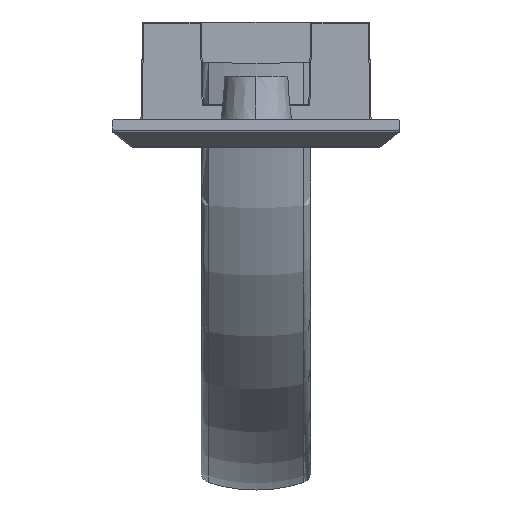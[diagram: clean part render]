
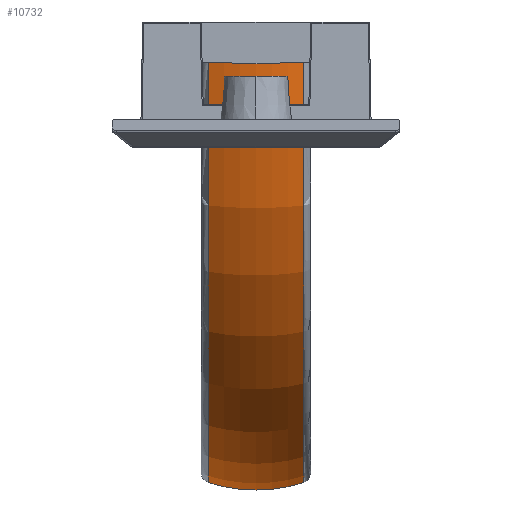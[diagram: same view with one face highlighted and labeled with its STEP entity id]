
A CAD part, front view. The second image highlights one B-rep face of the part: STEP entity #10732.
In plain terms, the highlighted toroidal (fillet/blend) face has major radius 25.752 mm and minor radius 14.998 mm.
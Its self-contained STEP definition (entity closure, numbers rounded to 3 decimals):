
#9583=CARTESIAN_POINT('',(4.603,41.142,-18.469));
#9811=CARTESIAN_POINT('',(-4.503,-38.942,
-18.469));
#9828=CARTESIAN_POINT('',(-4.503,1.1,
-18.31));
#9829=DIRECTION('',(-1.,0.,0.));
#9830=DIRECTION('',(0.,-1.,-0.004));
#9831=AXIS2_PLACEMENT_3D('',#9828,#9829,#9830);
#9833=CARTESIAN_POINT('',(-4.503,1.1,
-18.31));
#9834=DIRECTION('',(-1.,0.,0.));
#9835=DIRECTION('',(0.,-1.,0.004));
#9836=AXIS2_PLACEMENT_3D('',#9833,#9834,#9835);
#9838=CARTESIAN_POINT('',(-4.503,41.142,
-18.469));
#9839=CARTESIAN_POINT('',(-4.01,41.299,
-18.452));
#9840=CARTESIAN_POINT('',(-3.015,41.559,
-18.417));
#9841=CARTESIAN_POINT('',(-1.488,41.797,
-18.364));
#9842=CARTESIAN_POINT('',(-0.464,41.85,
-18.328));
#9843=CARTESIAN_POINT('',(0.05,41.85,
-18.31));
#9845=CARTESIAN_POINT('',(0.05,41.85,
-18.31));
#9846=CARTESIAN_POINT('',(0.564,41.85,
-18.328));
#9847=CARTESIAN_POINT('',(1.588,41.797,-18.364));
#9848=CARTESIAN_POINT('',(3.115,41.559,-18.417));
#9849=CARTESIAN_POINT('',(4.11,41.299,-18.452));
#9850=CARTESIAN_POINT('',(4.603,41.142,-18.469));
#9852=CARTESIAN_POINT('',(4.603,-38.942,
-18.469));
#9853=CARTESIAN_POINT('',(4.11,-39.099,
-18.452));
#9854=CARTESIAN_POINT('',(3.115,-39.359,
-18.417));
#9855=CARTESIAN_POINT('',(1.588,-39.597,
-18.364));
#9856=CARTESIAN_POINT('',(0.564,-39.65,
-18.328));
#9857=CARTESIAN_POINT('',(0.05,-39.65,
-18.31));
#9859=CARTESIAN_POINT('',(0.05,-39.65,
-18.31));
#9860=CARTESIAN_POINT('',(-0.464,-39.65,
-18.328));
#9861=CARTESIAN_POINT('',(-1.488,-39.597,
-18.364));
#9862=CARTESIAN_POINT('',(-3.015,-39.359,
-18.417));
#9863=CARTESIAN_POINT('',(-4.01,-39.099,
-18.452));
#9864=CARTESIAN_POINT('',(-4.503,-38.942,
-18.469));
#9866=CARTESIAN_POINT('',(4.603,1.1,-18.31));
#9867=DIRECTION('',(-1.,0.,0.));
#9868=DIRECTION('',(0.,-1.,-0.004));
#9869=AXIS2_PLACEMENT_3D('',#9866,#9867,#9868);
#9871=CARTESIAN_POINT('',(4.603,1.1,-18.31));
#9872=DIRECTION('',(-1.,0.,0.));
#9873=DIRECTION('',(0.,-1.,0.004));
#9874=AXIS2_PLACEMENT_3D('',#9871,#9872,#9873);
#10051=CARTESIAN_POINT('',(2.05,1.1,
-18.31));
#10052=DIRECTION('',(1.,0.,0.));
#10053=DIRECTION('',(0.,-0.995,0.096));
#10054=AXIS2_PLACEMENT_3D('',#10051,#10052,#10053);
#10060=CARTESIAN_POINT('',(2.05,-39.516,
-18.21));
#10061=CARTESIAN_POINT('',(1.607,-39.575,
-18.21));
#10062=CARTESIAN_POINT('',(0.72,-39.655,
-18.21));
#10063=CARTESIAN_POINT('',(-0.62,-39.655,
-18.21));
#10064=CARTESIAN_POINT('',(-1.507,-39.575,
-18.21));
#10065=CARTESIAN_POINT('',(-1.95,-39.516,
-18.21));
#10075=CARTESIAN_POINT('',(-1.95,1.1,
-18.31));
#10076=DIRECTION('',(-1.,0.,0.));
#10077=DIRECTION('',(0.,-1.,0.002));
#10078=AXIS2_PLACEMENT_3D('',#10075,#10076,#10077);
#10096=CARTESIAN_POINT('',(-1.95,-39.328,
-14.41));
#10097=CARTESIAN_POINT('',(-1.507,-39.388,
-14.41));
#10098=CARTESIAN_POINT('',(-0.62,-39.468,
-14.41));
#10099=CARTESIAN_POINT('',(0.72,-39.468,
-14.41));
#10100=CARTESIAN_POINT('',(1.607,-39.388,
-14.41));
#10101=CARTESIAN_POINT('',(2.05,-39.328,
-14.41));
#10128=CARTESIAN_POINT('',(0.05,41.85,
-18.31));
#10130=VERTEX_POINT('',#10128);
#10138=VERTEX_POINT('',#9583);
#10143=VERTEX_POINT('',#9852);
#10144=VERTEX_POINT('',#9857);
#10181=VERTEX_POINT('',#9811);
#10189=VERTEX_POINT('',#9838);
#10190=CARTESIAN_POINT('',(-4.503,-38.942,
-18.151));
#10191=VERTEX_POINT('',#10190);
#10192=CARTESIAN_POINT('',(4.603,-38.942,
-18.151));
#10193=VERTEX_POINT('',#10192);
#10194=CARTESIAN_POINT('',(2.05,-39.328,
-14.41));
#10195=CARTESIAN_POINT('',(2.05,-39.516,
-18.21));
#10196=VERTEX_POINT('',#10194);
#10197=VERTEX_POINT('',#10195);
#10198=VERTEX_POINT('',#10096);
#10199=CARTESIAN_POINT('',(-1.95,-39.516,
-18.21));
#10200=VERTEX_POINT('',#10199);
#10704=CARTESIAN_POINT('',(0.05,1.1,
-18.31));
#10705=DIRECTION('',(1.,0.,0.));
#10706=DIRECTION('',(0.,-1.,-0.004));
#10707=AXIS2_PLACEMENT_3D('',#10704,#10705,#10706);
#10708=TOROIDAL_SURFACE('',#10707,25.752,14.998);
#10709=ORIENTED_EDGE('',*,*,#10698,.T.);
#10710=ORIENTED_EDGE('',*,*,#10696,.T.);
#10711=ORIENTED_EDGE('',*,*,#10524,.T.);
#10712=ORIENTED_EDGE('',*,*,#10287,.T.);
#10714=ORIENTED_EDGE('',*,*,#10713,.F.);
#10716=ORIENTED_EDGE('',*,*,#10715,.F.);
#10718=ORIENTED_EDGE('',*,*,#10717,.T.);
#10719=ORIENTED_EDGE('',*,*,#10673,.T.);
#10720=EDGE_LOOP('',(#10709,#10710,#10711,#10712,#10714,#10716,#10718,#10719));
#10721=FACE_OUTER_BOUND('',#10720,.F.);
#10723=ORIENTED_EDGE('',*,*,#10722,.F.);
#10725=ORIENTED_EDGE('',*,*,#10724,.F.);
#10727=ORIENTED_EDGE('',*,*,#10726,.F.);
#10729=ORIENTED_EDGE('',*,*,#10728,.F.);
#10730=EDGE_LOOP('',(#10723,#10725,#10727,#10729));
#10731=FACE_BOUND('',#10730,.F.);
#10732=ADVANCED_FACE('',(#10721,#10731),#10708,.T.);
#9832=CIRCLE('',#9831,40.042);
#9837=CIRCLE('',#9836,40.042);
#9844=B_SPLINE_CURVE_WITH_KNOTS('',3,(#9838,#9839,#9840,#9841,#9842,#9843),
.UNSPECIFIED.,.F.,.F.,(4,1,1,4),(0.,0.333,0.667,1.),
.UNSPECIFIED.);
#9851=B_SPLINE_CURVE_WITH_KNOTS('',3,(#9845,#9846,#9847,#9848,#9849,#9850),
.UNSPECIFIED.,.F.,.F.,(4,1,1,4),(0.,0.333,0.667,1.),
.UNSPECIFIED.);
#9858=B_SPLINE_CURVE_WITH_KNOTS('',3,(#9852,#9853,#9854,#9855,#9856,#9857),
.UNSPECIFIED.,.F.,.F.,(4,1,1,4),(0.,0.333,0.667,1.),
.UNSPECIFIED.);
#9865=B_SPLINE_CURVE_WITH_KNOTS('',3,(#9859,#9860,#9861,#9862,#9863,#9864),
.UNSPECIFIED.,.F.,.F.,(4,1,1,4),(0.,0.333,0.667,1.),
.UNSPECIFIED.);
#9870=CIRCLE('',#9869,40.042);
#9875=CIRCLE('',#9874,40.042);
#10055=CIRCLE('',#10054,40.616);
#10066=B_SPLINE_CURVE_WITH_KNOTS('',3,(#10060,#10061,#10062,#10063,#10064,
#10065),.UNSPECIFIED.,.F.,.F.,(4,1,1,4),(0.,0.333,
0.667,1.),.UNSPECIFIED.);
#10079=CIRCLE('',#10078,40.616);
#10102=B_SPLINE_CURVE_WITH_KNOTS('',3,(#10096,#10097,#10098,#10099,#10100,
#10101),.UNSPECIFIED.,.F.,.F.,(4,1,1,4),(0.,0.333,
0.667,1.),.UNSPECIFIED.);
#10287=EDGE_CURVE('',#10130,#10138,#9851,.T.);
#10524=EDGE_CURVE('',#10189,#10130,#9844,.T.);
#10673=EDGE_CURVE('',#10144,#10181,#9865,.T.);
#10696=EDGE_CURVE('',#10191,#10189,#9837,.T.);
#10698=EDGE_CURVE('',#10181,#10191,#9832,.T.);
#10713=EDGE_CURVE('',#10193,#10138,#9875,.T.);
#10715=EDGE_CURVE('',#10143,#10193,#9870,.T.);
#10717=EDGE_CURVE('',#10143,#10144,#9858,.T.);
#10722=EDGE_CURVE('',#10196,#10197,#10055,.T.);
#10724=EDGE_CURVE('',#10198,#10196,#10102,.T.);
#10726=EDGE_CURVE('',#10200,#10198,#10079,.T.);
#10728=EDGE_CURVE('',#10197,#10200,#10066,.T.);
